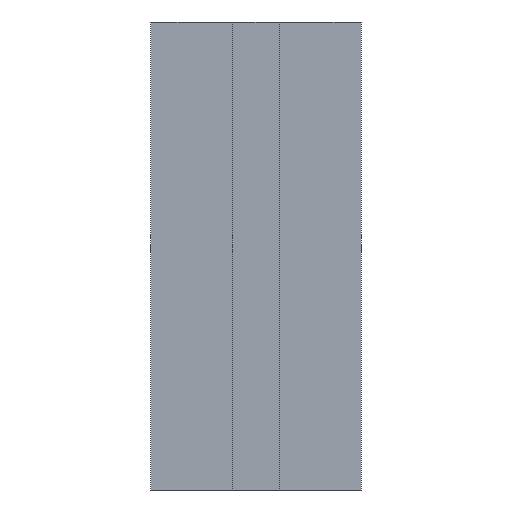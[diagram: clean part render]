
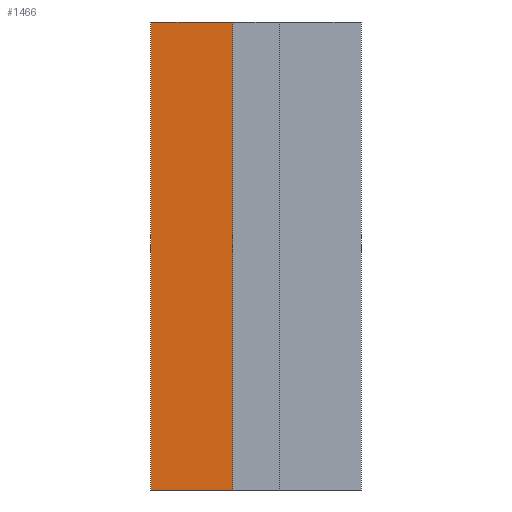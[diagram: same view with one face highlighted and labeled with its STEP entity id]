
A CAD part, front view. The second image highlights one B-rep face of the part: STEP entity #1466.
In plain terms, the highlighted planar face has unit normal (0, -1, 0).
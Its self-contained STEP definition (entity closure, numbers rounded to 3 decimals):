
#16 = AXIS2_PLACEMENT_3D ( 'NONE', #205, #2030, #880 ) ;
#46 = LINE ( 'NONE', #1756, #74 ) ;
#73 = CARTESIAN_POINT ( 'NONE',  ( 17.5, 0., -100. ) ) ;
#74 = VECTOR ( 'NONE', #312, 1000. ) ;
#101 = ORIENTED_EDGE ( 'NONE', *, *, #1221, .F. ) ;
#205 = CARTESIAN_POINT ( 'NONE',  ( 0., 0., -100. ) ) ;
#312 = DIRECTION ( 'NONE',  ( 1., 0., 0. ) ) ;
#328 = VERTEX_POINT ( 'NONE', #1233 ) ;
#418 = VERTEX_POINT ( 'NONE', #73 ) ;
#423 = PLANE ( 'NONE',  #16 ) ;
#432 = EDGE_CURVE ( 'NONE', #1111, #328, #1341, .T. ) ;
#515 = DIRECTION ( 'NONE',  ( 0., 0., 1. ) ) ;
#682 = EDGE_CURVE ( 'NONE', #1111, #418, #943, .T. ) ;
#880 = DIRECTION ( 'NONE',  ( 0., 0., -1. ) ) ;
#897 = CARTESIAN_POINT ( 'NONE',  ( 0., 0., -100. ) ) ;
#943 = LINE ( 'NONE', #897, #985 ) ;
#985 = VECTOR ( 'NONE', #2424, 1000. ) ;
#1111 = VERTEX_POINT ( 'NONE', #2385 ) ;
#1221 = EDGE_CURVE ( 'NONE', #328, #2420, #46, .T. ) ;
#1233 = CARTESIAN_POINT ( 'NONE',  ( 0., 0., 0. ) ) ;
#1246 = VECTOR ( 'NONE', #2315, 1000. ) ;
#1280 = ORIENTED_EDGE ( 'NONE', *, *, #432, .F. ) ;
#1295 = LINE ( 'NONE', #2512, #1246 ) ;
#1341 = LINE ( 'NONE', #1563, #1426 ) ;
#1398 = EDGE_LOOP ( 'NONE', ( #1874, #101, #1280, #2238 ) ) ;
#1426 = VECTOR ( 'NONE', #515, 1000. ) ;
#1466 = ADVANCED_FACE ( 'NONE', ( #2214 ), #423, .T. ) ;
#1563 = CARTESIAN_POINT ( 'NONE',  ( 0., 0., -100. ) ) ;
#1756 = CARTESIAN_POINT ( 'NONE',  ( 0., 0., 0. ) ) ;
#1874 = ORIENTED_EDGE ( 'NONE', *, *, #1917, .T. ) ;
#1917 = EDGE_CURVE ( 'NONE', #418, #2420, #1295, .T. ) ;
#1964 = CARTESIAN_POINT ( 'NONE',  ( 17.5, 0., 0. ) ) ;
#2030 = DIRECTION ( 'NONE',  ( 0., -1., 0. ) ) ;
#2214 = FACE_OUTER_BOUND ( 'NONE', #1398, .T. ) ;
#2238 = ORIENTED_EDGE ( 'NONE', *, *, #682, .T. ) ;
#2315 = DIRECTION ( 'NONE',  ( 0., 0., 1. ) ) ;
#2385 = CARTESIAN_POINT ( 'NONE',  ( 0., 0., -100. ) ) ;
#2420 = VERTEX_POINT ( 'NONE', #1964 ) ;
#2424 = DIRECTION ( 'NONE',  ( 1., 0., 0. ) ) ;
#2512 = CARTESIAN_POINT ( 'NONE',  ( 17.5, 0., -100. ) ) ;
